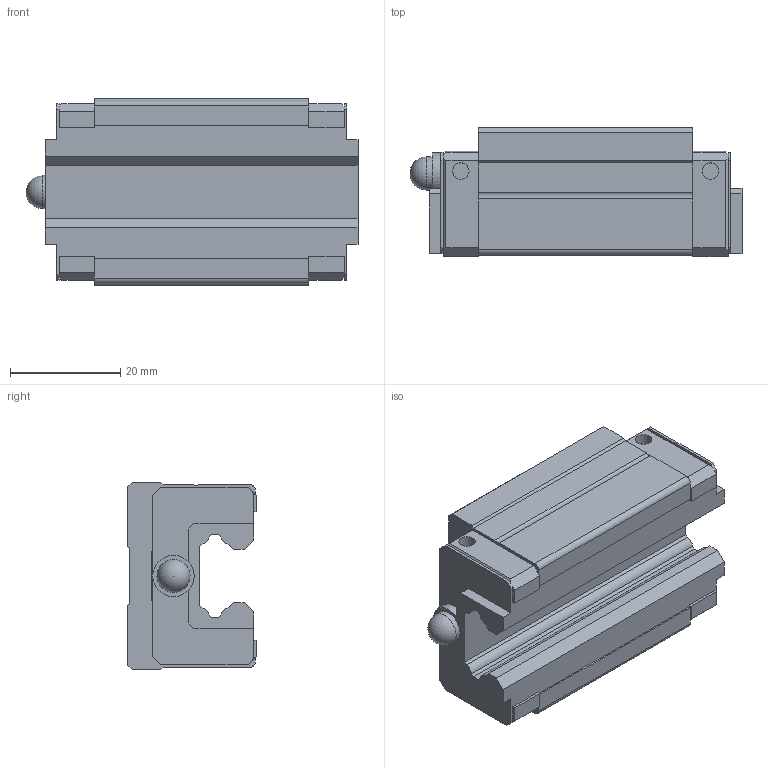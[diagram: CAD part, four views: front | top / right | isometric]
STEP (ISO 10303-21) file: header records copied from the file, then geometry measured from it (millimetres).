
FILE_DESCRIPTION(/* description */ ('STEP AP214'),/* implementation_level */ '2;1');
FILE_NAME(/* name */ 'HSR15R1SS(GK) BLOCK(PB1021B1)',/* time_stamp */ '2023-06-01T08:01:53+02:00',/* author */ ('License CC BY-ND 4.0'),/* organization */ ('CADENAS'),/* preprocessor_version */ 'ST-DEVELOPER v19.3',/* originating_system */ 'PARTsolutions',/* authorisation */ ' ');
FILE_SCHEMA (('AUTOMOTIVE_DESIGN {1 0 10303 214 3 1 1}'));
Length unit declared in the file: millimetre
Products named in the file (3): HSR15R1SS(GK) BLOCK(PB1021B1); hsr_ftht_PB1021B_grease_nipple_joint; HSR15RSSPB1021B10R2 S
Assembly tree (2 placements, depth 2):
  HSR15R1SS(GK) BLOCK(PB1021B1)
    hsr_ftht_PB1021B_grease_nipple_joint
    HSR15RSSPB1021B10R2 S
Bounding box: 60.1 x 23.3 x 34 mm (x, y, z)
Volume: 31572.8 mm3; surface area: 9394 mm2
Topology: 2 solids, 2 shells, 155 faces, 410 edges, 268 vertices
Faces by surface type: plane 118, cylinder 28, cone 8, sphere 1
Full cylindrical faces by diameter (mm): 3 x4, 3.242 x4, 4 x3, 5.1 x2, 6 x1, 7.5 x1
Entity records: 4653 total; most frequent: CARTESIAN_POINT 804, ORIENTED_EDGE 760, DIRECTION 756, EDGE_CURVE 380, LINE 320, VECTOR 320, VERTEX_POINT 266, AXIS2_PLACEMENT_3D 218
